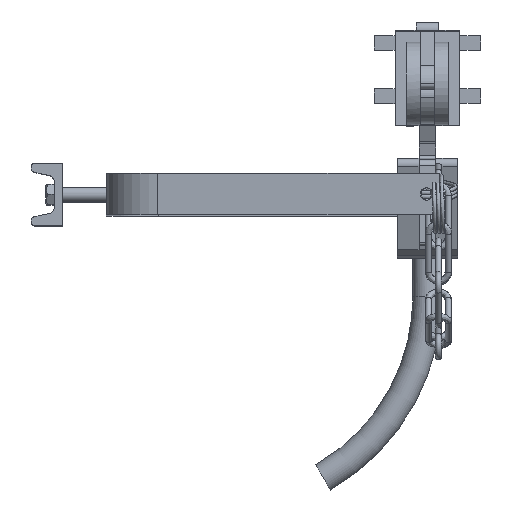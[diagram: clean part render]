
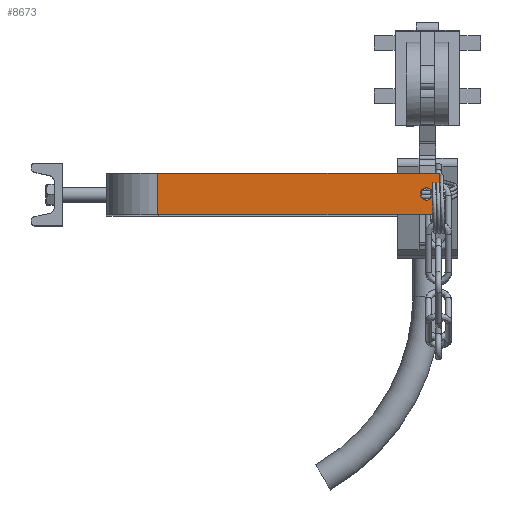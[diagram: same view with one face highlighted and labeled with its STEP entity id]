
A CAD part, top view. The second image highlights one B-rep face of the part: STEP entity #8673.
In plain terms, the highlighted planar face has unit normal (-0.053, 0, 0.999).
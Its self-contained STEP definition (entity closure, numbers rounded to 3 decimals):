
#406=PLANE('',#9360);
#707=CIRCLE('',#9361,3.);
#1269=LINE('',#17793,#1755);
#1276=LINE('',#17815,#1762);
#1277=LINE('',#17817,#1763);
#1278=LINE('',#17819,#1764);
#1755=VECTOR('',#11069,1000.);
#1762=VECTOR('',#11086,1000.);
#1763=VECTOR('',#11087,1000.);
#1764=VECTOR('',#11088,1000.);
#3456=ORIENTED_EDGE('',*,*,#4445,.T.);
#3457=ORIENTED_EDGE('',*,*,#4456,.T.);
#3458=ORIENTED_EDGE('',*,*,#4457,.T.);
#3459=ORIENTED_EDGE('',*,*,#4458,.T.);
#3460=ORIENTED_EDGE('',*,*,#4459,.T.);
#4445=EDGE_CURVE('',#5063,#5064,#1269,.T.);
#4456=EDGE_CURVE('',#5064,#5073,#1276,.T.);
#4457=EDGE_CURVE('',#5073,#5074,#1277,.T.);
#4458=EDGE_CURVE('',#5074,#5063,#1278,.T.);
#4459=EDGE_CURVE('',#5075,#5075,#707,.T.);
#5063=VERTEX_POINT('',#17794);
#5064=VERTEX_POINT('',#17795);
#5073=VERTEX_POINT('',#17816);
#5074=VERTEX_POINT('',#17818);
#5075=VERTEX_POINT('',#17821);
#5600=EDGE_LOOP('',(#3456,#3457,#3458,#3459));
#5601=EDGE_LOOP('',(#3460));
#6031=FACE_BOUND('',#5600,.T.);
#6032=FACE_BOUND('',#5601,.T.);
#8673=ADVANCED_FACE('',(#6031,#6032),#406,.T.);
#9360=AXIS2_PLACEMENT_3D('',#17814,#11084,#11085);
#9361=AXIS2_PLACEMENT_3D('',#17820,#11089,#11090);
#11069=DIRECTION('',(0.999,0.,0.053));
#11084=DIRECTION('',(-0.053,0.,0.999));
#11085=DIRECTION('',(0.999,0.,0.053));
#11086=DIRECTION('',(0.,1.,0.));
#11087=DIRECTION('',(-0.999,0.,-0.053));
#11088=DIRECTION('',(0.,-1.,0.));
#11089=DIRECTION('',(0.053,0.,-0.999));
#11090=DIRECTION('',(0.999,0.,0.053));
#17793=CARTESIAN_POINT('',(18.619,-10.,183.808));
#17794=CARTESIAN_POINT('',(18.619,-10.,183.808));
#17795=CARTESIAN_POINT('',(153.681,-10.,190.992));
#17814=CARTESIAN_POINT('',(18.619,-10.,183.808));
#17815=CARTESIAN_POINT('',(153.681,-10.,190.992));
#17816=CARTESIAN_POINT('',(153.681,10.,190.992));
#17817=CARTESIAN_POINT('',(153.681,10.,190.992));
#17818=CARTESIAN_POINT('',(18.619,10.,183.808));
#17819=CARTESIAN_POINT('',(18.619,10.,183.808));
#17820=CARTESIAN_POINT('',(147.69,0.,190.673));
#17821=CARTESIAN_POINT('',(150.686,0.,190.832));
